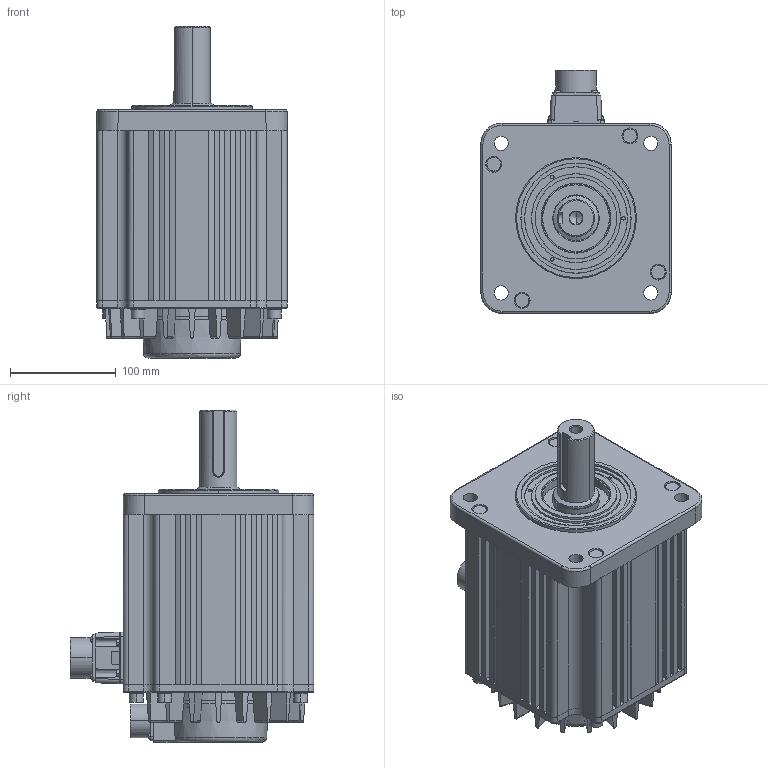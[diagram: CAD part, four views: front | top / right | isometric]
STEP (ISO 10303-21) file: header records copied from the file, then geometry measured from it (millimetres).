
FILE_DESCRIPTION((''),'2;1');
FILE_NAME('ECMA-FX1845RS','2015-04-02T',('MIO.CHEN'),(''),'PRO/ENGINEER BY PARAMETRIC TECHNOLOGY CORPORATION, 2010180','PRO/ENGINEER BY PARAMETRIC TECHNOLOGY CORPORATION, 2010180','');
FILE_SCHEMA(('AUTOMOTIVE_DESIGN_CC2 { 1 2 10303 214 -1 1 5 2 }'));
Length unit declared in the file: millimetre
Products named in the file (1): ECMA-FX1845RS
Bounding box: 180 x 230.02 x 314 mm (x, y, z)
Volume: 5992155.4 mm3; surface area: 315509 mm2
Topology: 1 solids, 1 shells, 599 faces, 1430 edges, 904 vertices
Faces by surface type: plane 319, cylinder 189, cone 50, bspline 27, torus 14
Entity records: 18455 total; most frequent: CARTESIAN_POINT 4584, ORIENTED_EDGE 2856, DIRECTION 2829, EDGE_CURVE 1428, AXIS2_PLACEMENT_3D 1005, VERTEX_POINT 904, VECTOR 819, LINE 819
